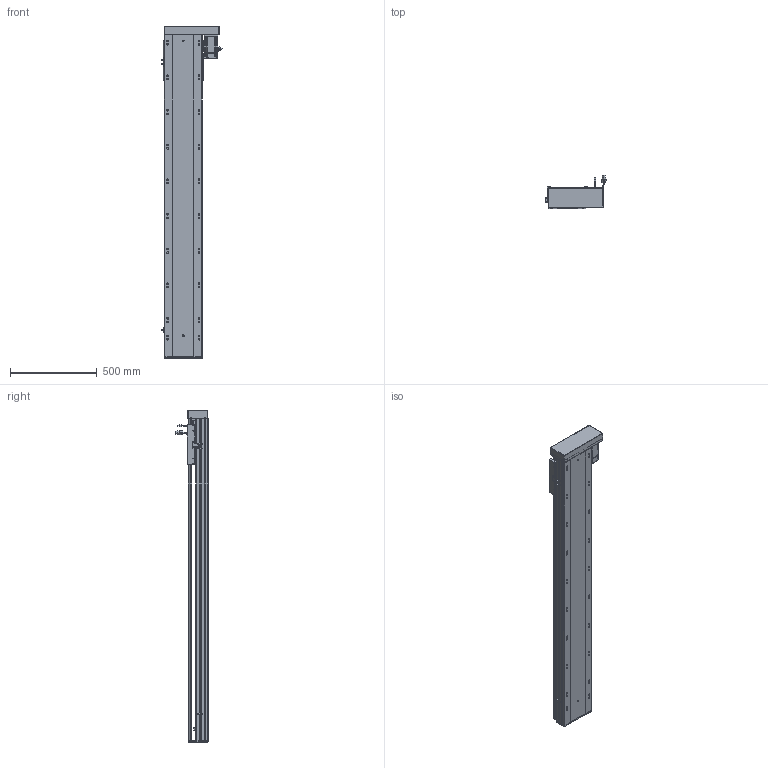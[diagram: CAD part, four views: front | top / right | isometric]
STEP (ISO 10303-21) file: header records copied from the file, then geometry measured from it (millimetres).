
FILE_DESCRIPTION (( 'STEP AP203' ), '1' );
FILE_NAME ('RY220-L2525-800-RK-邧嶺.SLDASM_1500.step', '2022-08-06T08:53:18', ( '' ), ( '' ), 'SwSTEP 2.0', 'SolidWorks 2016', '' );
FILE_SCHEMA (( 'CONFIG_CONTROL_DESIGN' ));
Length unit declared in the file: millimetre
Products named in the file (12): RY220-800-蛌殏奻裔啣_1500; RY220-俋离672覜茼んえ; RY220-L2525-800-RK-邧嶺.SLDASM_1500; 怢湛750W_ECMA-CX0807ES; RY220蛌殏菁釱-800-邧嶺_1500; 覜茼ん672; RY220綴裔啣; RY220半封闭25-32螺母铝滑块; 滅袉蝶18-15; RY220酘衵殏萇儂欶; 滅袉蝶18-10; RY220左右折电机安装板
Assembly tree (15 placements, depth 2):
  RY220-L2525-800-RK-邧嶺.SLDASM_1500
    RY220蛌殏菁釱-800-邧嶺_1500
    RY220-800-蛌殏奻裔啣_1500
    怢湛750W_ECMA-CX0807ES
    滅袉蝶18-10  x2
    RY220-俋离672覜茼んえ
    覜茼ん672  x3
    RY220綴裔啣
    RY220半封闭25-32螺母铝滑块
    滅袉蝶18-15  x2
    RY220左右折电机安装板
    RY220酘衵殏萇儂欶
Bounding box: 347.44 x 187.27 x 1914 mm (x, y, z)
Volume: 14971277.9 mm3; surface area: 4496372.4 mm2
Topology: 16 solids, 16 shells, 2281 faces, 6300 edges, 3965 vertices
Faces by surface type: cylinder 1049, plane 904, cone 258, bspline 44, sphere 16, torus 10
Entity records: 75363 total; most frequent: CARTESIAN_POINT 21735, ORIENTED_EDGE 11112, DIRECTION 10532, EDGE_CURVE 5556, AXIS2_PLACEMENT_3D 3727, VERTEX_POINT 3621, VECTOR 3078, LINE 3078
